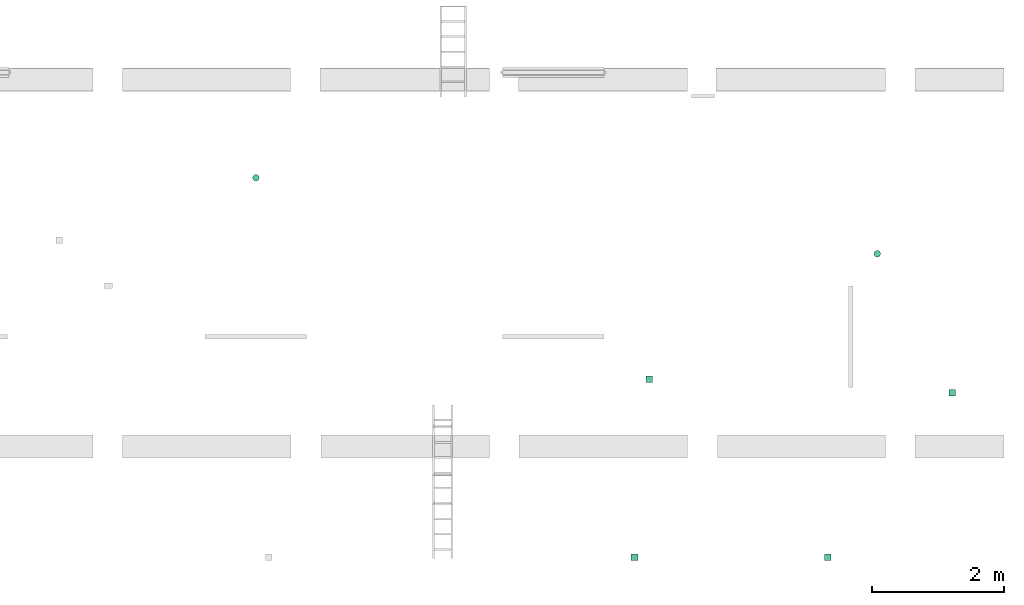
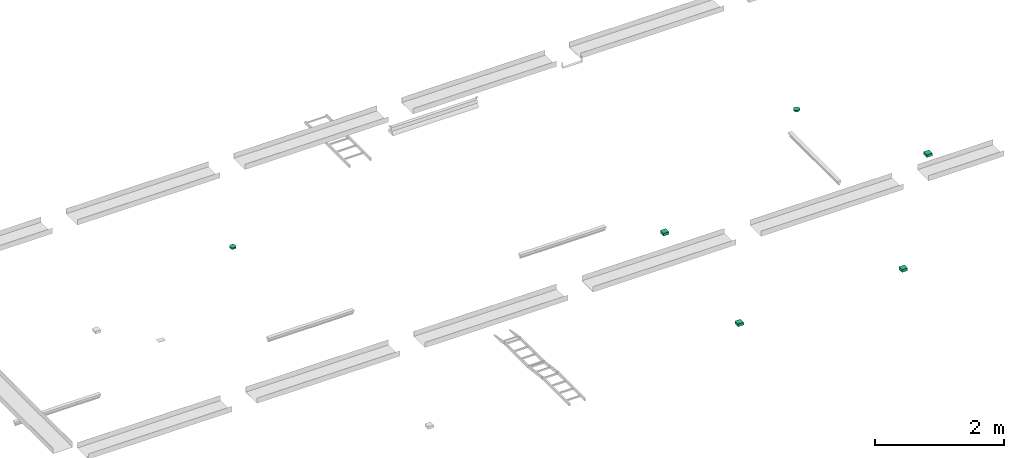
# One storey, part 7 of 14: 4 flow terminals, 2 distribution control elements.
"""IFC2X3 building model written with IfcOpenShell, lengths in millimetres."""

from ifc_helpers import new_model, entity, si_unit, converted_unit, derived_unit, direction, frame, origin_with_axes, place, context, subcontext, project, spatial, open_shell, surface_model, source, transform, mapped, type_object, element, save


model = new_model("IFC2X3")

# Units and contexts
model_context = context("Model", 3, precision=0.01, world=frame((0.0, 4.29681676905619e-09, 0.0)), true_north=direction((4.01073788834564e-13, 1.0)))
plan_context = context("Plan", 3, precision=0.01, world=frame((0.0, 4.29681676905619e-09, 0.0)), true_north=direction((4.01073788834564e-13, 1.0)))
body_context = subcontext(model_context, "Body", "Model", "MODEL_VIEW")
ifc_project = project(units=[converted_unit("PLANEANGLEUNIT", "DEGREE", entity("IfcPositiveLengthMeasure", 0.0174532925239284), si_unit("PLANEANGLEUNIT", "RADIAN"), dimensions=[0, 0, 0, 0, 0, 0, 0]), si_unit("AREAUNIT", "SQUARE_METRE"), si_unit("LENGTHUNIT", "METRE", prefix="MILLI"), si_unit("MASSUNIT", "GRAM", prefix="KILO"), si_unit("POWERUNIT", "WATT"), si_unit("PRESSUREUNIT", "PASCAL", prefix="KILO"), si_unit("FORCEUNIT", "NEWTON", prefix="KILO"), si_unit("ELECTRICVOLTAGEUNIT", "VOLT"), si_unit("ELECTRICCURRENTUNIT", "AMPERE"), si_unit("THERMODYNAMICTEMPERATUREUNIT", "DEGREE_CELSIUS"), si_unit("TIMEUNIT", "SECOND"), si_unit("VOLUMEUNIT", "CUBIC_METRE"), derived_unit("LINEARVELOCITYUNIT", [(si_unit("LENGTHUNIT", "METRE"), 1), (si_unit("TIMEUNIT", "SECOND"), -1)]), derived_unit("VOLUMETRICFLOWRATEUNIT", [(si_unit("VOLUMEUNIT", "CUBIC_METRE"), 1), (si_unit("TIMEUNIT", "SECOND"), -1)]), derived_unit("THERMALTRANSMITTANCEUNIT", [(si_unit("POWERUNIT", "WATT"), 1), (si_unit("THERMODYNAMICTEMPERATUREUNIT", "KELVIN"), -1), (si_unit("AREAUNIT", "SQUARE_METRE"), -1)]), derived_unit("SOUNDPRESSUREUNIT", [(si_unit("PRESSUREUNIT", "PASCAL"), 1)])], contexts=[model_context, plan_context])

# Site, building, storey
site_placement = place(None, frame((0.0, -4.29681676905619e-09, 0.0), z_axis=(0.0, 0.0, 1.0), x_axis=(1.0, 0.0, 0.0)))
site = spatial("IfcSite", under=ifc_project, at=site_placement, Name="ENGM", CompositionType="ELEMENT")
building_placement = place(site_placement, frame((0.0, 4.29681676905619e-09, 0.0), z_axis=(0.0, 0.0, 1.0), x_axis=(1.0, 0.0, 0.0)))
building = spatial("IfcBuilding", under=site, at=building_placement, Name="TG", CompositionType="ELEMENT")
storey_placement = place(building_placement, frame((0.0, 0.0, 205200.0), z_axis=(0.0, 0.0, 1.0), x_axis=(1.0, 0.0, 0.0)))
storey = spatial("IfcBuildingStorey", under=building, at=storey_placement, Name="Nivå D + 1,2", CompositionType="ELEMENT", Elevation=205200.0)

# Distribution control elements
alarm_type = type_object("IfcAlarmType", Name="Standard", PredefinedType="NOTDEFINED")
shared_shape_1 = source(origin_with_axes(), body_context, "Body", "SurfaceModel", [
    surface_model("IfcShellBasedSurfaceModel", [(-25.0, 43.30127, -28.9), (-35.35534, 35.35534, -28.9), (-18.0, 31.17691, -28.9), (-25.45584, 25.45584, -28.9), (-9.31749, 34.77333, -28.9), (-12.94095, 48.29629, -28.9), (0.0, 36.0, -28.9), (0.0, 50.0, -28.9), (-34.77333, 9.31749, -28.9), (-43.30127, 25.0, -28.9), (-48.29629, 12.94095, -28.9), (-36.0, 0.0, -28.9), (-50.0, 0.0, -28.9), (-31.17691, 18.0, -28.9), (9.31749, 34.77333, -28.9), (12.94095, 48.29629, -28.9), (18.0, 31.17691, -28.9), (35.35534, 35.35534, -28.9), (25.0, 43.30127, -28.9), (25.45584, 25.45584, -28.9), (31.17691, 18.0, -28.9), (34.77333, 9.31749, -28.9), (43.30127, 25.0, -28.9), (48.29629, 12.94095, -28.9), (36.0, 0.0, -28.9), (50.0, 0.0, -28.9), (-34.77333, -9.31749, -28.9), (-48.29629, -12.94095, -28.9), (-31.17691, -18.0, -28.9), (-43.30127, -25.0, -28.9), (-25.45584, -25.45584, -28.9), (-35.35534, -35.35534, -28.9), (-18.0, -31.17691, -28.9), (-25.0, -43.30127, -28.9), (-9.31749, -34.77333, -28.9), (-12.94095, -48.29629, -28.9), (0.0, -36.0, -28.9), (0.0, -50.0, -28.9), (43.30127, -25.0, -28.9), (31.17691, -18.0, -28.9), (35.35534, -35.35534, -28.9), (34.77333, -9.31749, -28.9), (48.29629, -12.94095, -28.9), (25.45584, -25.45584, -28.9), (9.31749, -34.77333, -28.9), (12.94095, -48.29629, -28.9), (18.0, -31.17691, -28.9), (25.0, -43.30127, -28.9), (-25.0, -43.30127, -29.1), (-35.35534, -35.35534, -29.1), (-18.0, -31.17691, -29.1), (-25.45584, -25.45584, -29.1), (-9.31749, -34.77333, -29.1), (-12.94095, -48.29629, -29.1), (0.0, -36.0, -29.1), (0.0, -50.0, -29.1), (-34.77333, -9.31749, -29.1), (-43.30127, -25.0, -29.1), (-48.29629, -12.94095, -29.1), (-36.0, 0.0, -29.1), (-50.0, 0.0, -29.1), (-31.17691, -18.0, -29.1), (9.31749, -34.77333, -29.1), (12.94095, -48.29629, -29.1), (18.0, -31.17691, -29.1), (35.35534, -35.35534, -29.1), (25.0, -43.30127, -29.1), (25.45584, -25.45584, -29.1), (31.17691, -18.0, -29.1), (34.77333, -9.31749, -29.1), (43.30127, -25.0, -29.1), (48.29629, -12.94095, -29.1), (36.0, 0.0, -29.1), (50.0, 0.0, -29.1), (-34.77333, 9.31749, -29.1), (-48.29629, 12.94095, -29.1), (-31.17691, 18.0, -29.1), (-43.30127, 25.0, -29.1), (-25.45584, 25.45584, -29.1), (-35.35534, 35.35534, -29.1), (-18.0, 31.17691, -29.1), (-25.0, 43.30127, -29.1), (-9.31749, 34.77333, -29.1), (-12.94095, 48.29629, -29.1), (0.0, 36.0, -29.1), (0.0, 50.0, -29.1), (43.30127, 25.0, -29.1), (31.17691, 18.0, -29.1), (35.35534, 35.35534, -29.1), (34.77333, 9.31749, -29.1), (48.29629, 12.94095, -29.1), (25.45584, 25.45584, -29.1), (9.31749, 34.77333, -29.1), (12.94095, 48.29629, -29.1), (18.0, 31.17691, -29.1), (25.0, 43.30127, -29.1), (6.47048, -24.14815, -44.9), (12.5, -21.65064, -44.9), (17.67767, -17.67767, -44.9), (24.14815, -6.47048, -44.9), (-24.14815, -6.47048, -44.9), (21.65064, -12.5, -44.9), (-21.65064, 12.5, -44.9), (0.0, -25.0, -44.9), (-12.5, -21.65064, -44.9), (-6.47048, -24.14815, -44.9), (-17.67767, -17.67767, -44.9), (-21.65064, -12.5, -44.9), (25.0, 0.0, -44.9), (24.14815, 6.47048, -44.9), (21.65064, 12.5, -44.9), (17.67767, 17.67767, -44.9), (12.5, 21.65064, -44.9), (6.47048, 24.14815, -44.9), (0.0, 25.0, -44.9), (-25.0, 0.0, -44.9), (-24.14815, 6.47048, -44.9), (-12.5, 21.65064, -44.9), (-17.67767, 17.67767, -44.9), (-6.47048, 24.14815, -44.9), (0.0, 25.0, -45.1), (6.47048, 24.14815, -45.1), (12.5, 21.65064, -45.1), (-21.65064, 12.5, -45.1), (17.67767, 17.67767, -45.1), (21.65064, 12.5, -45.1), (24.14815, 6.47048, -45.1), (-12.5, 21.65064, -45.1), (-17.67767, 17.67767, -45.1), (-6.47048, 24.14815, -45.1), (-25.0, 0.0, -45.1), (-24.14815, 6.47048, -45.1), (-24.14815, -6.47048, -45.1), (24.14815, -6.47048, -45.1), (6.47048, -24.14815, -45.1), (21.65064, -12.5, -45.1), (17.67767, -17.67767, -45.1), (12.5, -21.65064, -45.1), (-12.5, -21.65064, -45.1), (-17.67767, -17.67767, -45.1), (-21.65064, -12.5, -45.1), (0.0, -25.0, -45.1), (-6.47048, -24.14815, -45.1), (25.0, 0.0, -45.1), (-1.46739, 34.60682, -29.0), (0.0, 34.8, -29.0), (0.0, 35.0, -29.0), (-34.60682, 1.46739, -29.0), (-35.0, 0.0, -29.0), (-34.8, 0.0, -29.0), (-17.5, 30.31089, -29.0), (-18.5742, 29.23669, -29.0), (-17.4, 30.13768, -29.0), (-24.60732, -24.60732, -29.0), (-18.5742, -29.23669, -29.0), (-29.23669, -18.5742, -29.0), (34.8, 0.0, -29.0), (34.60682, -1.46739, -29.0), (35.0, 0.0, -29.0), (17.4, 30.13768, -29.0), (17.5, 30.31089, -29.0), (16.03261, 30.70407, -29.0), (30.13768, 17.4, -29.0), (30.31089, 17.5, -29.0), (29.23669, 18.5742, -29.0), (34.60682, 1.46739, -29.0), (33.61422, -9.0069, -29.0), (30.70407, -16.03261, -29.0), (-33.61422, -9.0069, -29.0), (-30.70407, -16.03261, -29.0), (-34.60682, -1.46739, -29.0), (-30.13768, -17.4, -29.0), (-30.31089, -17.5, -29.0), (-17.5, -30.31089, -29.0), (-17.4, -30.13768, -29.0), (-1.46739, -34.60682, -29.0), (0.0, -35.0, -29.0), (0.0, -34.8, -29.0), (-16.03261, -30.70407, -29.0), (-9.0069, -33.61422, -29.0), (1.46739, -34.60682, -29.0), (30.13768, -17.4, -29.0), (29.23669, -18.5742, -29.0), (30.31089, -17.5, -29.0), (24.60732, -24.60732, -29.0), (18.5742, -29.23669, -29.0), (9.0069, -33.61422, -29.0), (16.03261, -30.70407, -29.0), (-30.13768, 17.4, -29.0), (-30.31089, 17.5, -29.0), (-30.70407, 16.03261, -29.0), (17.4, -30.13768, -29.0), (17.5, -30.31089, -29.0), (-33.61422, 9.0069, -29.0), (-29.23669, 18.5742, -29.0), (-24.60732, 24.60732, -29.0), (-16.03261, 30.70407, -29.0), (-9.0069, 33.61422, -29.0), (1.46739, 34.60682, -29.0), (9.0069, 33.61422, -29.0), (18.5742, 29.23669, -29.0), (24.60732, 24.60732, -29.0), (30.70407, 16.03261, -29.0), (33.61422, 9.0069, -29.0), (23.00389, 18.55381, -38.25), (14.9, 25.80756, -38.25), (21.07178, 21.07178, -38.25), (29.66376, 1.03484, -38.25), (30.0, 0.0, -38.25), (29.8, 0.0, -38.25), (24.27051, 17.63356, -38.25), (24.68215, 16.36666, -38.25), (10.52665, 27.61906, -38.25), (28.78459, 7.71281, -38.25), (-10.52665, 27.61906, -38.25), (-23.00389, 18.55381, -38.25), (-14.9, 25.80756, -38.25), (8.32335, 28.5317, -38.25), (0.0, 29.8, -38.25), (7.71281, 28.78459, -38.25), (-8.32335, 28.5317, -38.25), (-24.68215, 16.36666, -38.25), (-28.78459, 7.71281, -38.25), (-25.80756, 14.9, -38.25), (-9.27051, 28.5317, -38.25), (-29.66376, 1.03484, -38.25), (-29.8, 0.0, -38.25), (-30.0, 0.0, -38.25), (-28.78459, -7.71281, -38.25), (-24.68215, -16.36666, -38.25), (-25.80756, -14.9, -38.25), (29.66376, -1.03484, -38.25), (-7.71281, 28.78459, -38.25), (25.80756, 14.9, -38.25), (14.9, -25.80756, -38.25), (10.52665, -27.61906, -38.25), (23.00389, -18.55381, -38.25), (28.78459, -7.71281, -38.25), (24.68215, -16.36666, -38.25), (0.0, -29.8, -38.25), (-7.71281, -28.78459, -38.25), (-8.32335, -28.5317, -38.25), (8.32335, -28.5317, -38.25), (9.27051, 28.5317, -38.25), (-29.66376, -1.03484, -38.25), (21.07178, -21.07178, -38.25), (-23.00389, -18.55381, -38.25), (-24.27051, -17.63356, -38.25), (-9.27051, -28.5317, -38.25), (-10.52665, -27.61906, -38.25), (-21.07178, -21.07178, -38.25), (-14.9, -25.80756, -38.25), (9.27051, -28.5317, -38.25), (7.71281, -28.78459, -38.25), (24.27051, -17.63356, -38.25), (25.80756, -14.9, -38.25), (-21.07178, 21.07178, -38.25), (-24.27051, 17.63356, -38.25), (33.28589, -6.39713, -29.0), (27.13526, -8.81678, -38.25), (-16.77051, -23.08263, -38.25), (-23.90544, -23.90544, -29.0), (-27.13526, -8.81678, -38.25), (-33.28589, -6.39713, -29.0), (16.77051, -23.08263, -38.25), (8.75, -32.65544, -29.0), (0.0, -28.5317, -38.25), (23.90544, -23.90544, -29.0), (-8.75, -32.65544, -29.0), (-33.28589, 6.39713, -29.0), (-27.13526, 8.81678, -38.25), (16.77051, 23.08263, -38.25), (23.90544, 23.90544, -29.0), (27.13526, 8.81678, -38.25), (33.28589, 6.39713, -29.0), (-16.77051, 23.08263, -38.25), (-8.75, 32.65544, -29.0), (0.0, 28.5317, -38.25), (-23.90544, 23.90544, -29.0), (8.75, 32.65544, -29.0), (12.4, 21.47743, -45.0), (17.53625, 17.53625, -45.0), (19.07577, 15.5299, -45.0), (20.22543, 14.69463, -45.0), (20.59905, 13.54472, -45.0), (24.66376, 1.03484, -45.0), (25.0, 0.0, -45.0), (24.8, 0.0, -45.0), (8.88673, 22.93267, -45.0), (23.95496, 6.41871, -45.0), (-8.88673, 22.93267, -45.0), (-19.07577, 15.5299, -45.0), (-12.4, 21.47743, -45.0), (6.84976, 23.77641, -45.0), (0.0, 24.8, -45.0), (6.41871, 23.95496, -45.0), (-7.72542, 23.77641, -45.0), (-6.84976, 23.77641, -45.0), (-21.47743, 12.4, -45.0), (-20.59905, 13.54472, -45.0), (-23.95496, 6.41871, -45.0), (-25.0, 0.0, -45.0), (-24.66376, 1.03484, -45.0), (-24.8, 0.0, -45.0), (-23.95496, -6.41871, -45.0), (-20.59905, -13.54472, -45.0), (-21.47743, -12.4, -45.0), (-6.41871, 23.95496, -45.0), (24.66376, -1.03484, -45.0), (21.47743, 12.4, -45.0), (12.4, -21.47743, -45.0), (8.88673, -22.93267, -45.0), (19.07577, -15.5299, -45.0), (23.95496, -6.41871, -45.0), (20.59905, -13.54472, -45.0), (0.0, -24.8, -45.0), (-6.41871, -23.95496, -45.0), (-6.84976, -23.77641, -45.0), (7.72542, -23.77641, -45.0), (6.84976, -23.77641, -45.0), (7.72542, 23.77641, -45.0), (-24.66376, -1.03484, -45.0), (17.53625, -17.53625, -45.0), (-20.22543, -14.69463, -45.0), (-19.07577, -15.5299, -45.0), (-8.88673, -22.93267, -45.0), (-7.72542, -23.77641, -45.0), (-17.53625, -17.53625, -45.0), (-12.4, -21.47743, -45.0), (6.41871, -23.95496, -45.0), (20.22543, -14.69463, -45.0), (21.47743, -12.4, -45.0), (-17.53625, 17.53625, -45.0), (-20.22543, 14.69463, -45.0), (-22.61271, -7.34732, -45.0), (-13.97542, -19.23552, -45.0), (0.0, -23.77641, -45.0), (21.83768, -9.73262, -45.0), (13.97542, -19.23552, -45.0), (23.41884, -4.86631, -45.0), (22.61271, 7.34732, -45.0), (13.97542, 19.23552, -45.0), (0.0, 23.77641, -45.0), (-21.83768, 9.73262, -45.0), (-13.97542, 19.23552, -45.0), (-23.41884, 4.86631, -45.0), (12.94095, -48.29629, 0.0), (25.0, -43.30127, 0.0), (35.35534, -35.35534, 0.0), (48.29629, -12.94095, 0.0), (-48.29629, -12.94095, 0.0), (43.30127, -25.0, 0.0), (-43.30127, 25.0, 0.0), (0.0, -50.0, 0.0), (-25.0, -43.30127, 0.0), (-12.94095, -48.29629, 0.0), (-35.35534, -35.35534, 0.0), (-43.30127, -25.0, 0.0), (50.0, 0.0, 0.0), (48.29629, 12.94095, 0.0), (43.30127, 25.0, 0.0), (35.35534, 35.35534, 0.0), (25.0, 43.30127, 0.0), (12.94095, 48.29629, 0.0), (0.0, 50.0, 0.0), (-50.0, 0.0, 0.0), (-48.29629, 12.94095, 0.0), (-25.0, 43.30127, 0.0), (-35.35534, 35.35534, 0.0), (-12.94095, 48.29629, 0.0), (0.0, 50.0, -29.0), (12.94095, 48.29629, -29.0), (25.0, 43.30127, -29.0), (-43.30127, 25.0, -29.0), (35.35534, 35.35534, -29.0), (43.30127, 25.0, -29.0), (48.29629, 12.94095, -29.0), (-25.0, 43.30127, -29.0), (-35.35534, 35.35534, -29.0), (-12.94095, 48.29629, -29.0), (-50.0, 0.0, -29.0), (-48.29629, 12.94095, -29.0), (-48.29629, -12.94095, -29.0), (48.29629, -12.94095, -29.0), (12.94095, -48.29629, -29.0), (43.30127, -25.0, -29.0), (35.35534, -35.35534, -29.0), (25.0, -43.30127, -29.0), (-25.0, -43.30127, -29.0), (-35.35534, -35.35534, -29.0), (-43.30127, -25.0, -29.0), (0.0, -50.0, -29.0), (-12.94095, -48.29629, -29.0), (50.0, 0.0, -29.0)], [open_shell([[[0, 1, 2]], [[2, 1, 3]], [[0, 2, 4]], [[5, 4, 6]], [[4, 5, 0]], [[5, 6, 7]], [[8, 9, 10]], [[11, 10, 12]], [[8, 10, 11]], [[13, 3, 9]], [[8, 13, 9]], [[9, 3, 1]], [[7, 14, 15]], [[14, 7, 6]], [[15, 14, 16]], [[17, 18, 19]], [[16, 18, 15]], [[19, 18, 16]], [[20, 21, 22]], [[20, 22, 17]], [[21, 23, 22]], [[23, 21, 24]], [[23, 24, 25]], [[20, 17, 19]], [[26, 12, 27]], [[28, 27, 29]], [[28, 26, 27]], [[30, 28, 29]], [[29, 31, 30]], [[32, 31, 33]], [[31, 32, 30]], [[32, 33, 34]], [[34, 35, 36]], [[35, 34, 33]], [[36, 35, 37]], [[38, 39, 40]], [[41, 39, 42]], [[41, 42, 25]], [[42, 39, 38]], [[39, 43, 40]], [[25, 24, 41]], [[44, 37, 45]], [[37, 44, 36]], [[44, 45, 46]], [[47, 40, 43]], [[47, 46, 45]], [[47, 43, 46]], [[26, 11, 12]], [[48, 49, 50]], [[50, 49, 51]], [[48, 50, 52]], [[53, 52, 54]], [[52, 53, 48]], [[53, 54, 55]], [[56, 57, 58]], [[59, 58, 60]], [[56, 58, 59]], [[61, 51, 57]], [[56, 61, 57]], [[57, 51, 49]], [[55, 62, 63]], [[62, 55, 54]], [[63, 62, 64]], [[65, 66, 67]], [[64, 66, 63]], [[67, 66, 64]], [[68, 69, 70]], [[68, 70, 65]], [[69, 71, 70]], [[71, 69, 72]], [[71, 72, 73]], [[68, 65, 67]], [[74, 60, 75]], [[76, 75, 77]], [[76, 74, 75]], [[78, 76, 77]], [[77, 79, 78]], [[80, 79, 81]], [[79, 80, 78]], [[80, 81, 82]], [[82, 83, 84]], [[83, 82, 81]], [[84, 83, 85]], [[86, 87, 88]], [[89, 87, 90]], [[89, 90, 73]], [[90, 87, 86]], [[87, 91, 88]], [[73, 72, 89]], [[92, 85, 93]], [[85, 92, 84]], [[92, 93, 94]], [[95, 88, 91]], [[95, 94, 93]], [[95, 91, 94]], [[74, 59, 60]], [[11, 59, 8]], [[8, 74, 13]], [[2, 3, 78]], [[76, 3, 13]], [[4, 2, 80]], [[74, 76, 13]], [[8, 59, 74]], [[84, 6, 82]], [[4, 80, 82]], [[80, 2, 78]], [[3, 76, 78]], [[4, 82, 6]], [[14, 92, 16]], [[16, 94, 19]], [[21, 20, 87]], [[91, 20, 19]], [[24, 21, 89]], [[92, 94, 16]], [[14, 84, 92]], [[21, 87, 89]], [[87, 20, 91]], [[19, 94, 91]], [[24, 89, 72]], [[6, 84, 14]], [[24, 72, 41]], [[41, 69, 39]], [[46, 43, 67]], [[68, 43, 39]], [[44, 46, 64]], [[69, 68, 39]], [[41, 72, 69]], [[54, 36, 62]], [[44, 64, 62]], [[64, 46, 67]], [[43, 68, 67]], [[44, 62, 36]], [[34, 52, 32]], [[32, 50, 30]], [[26, 28, 61]], [[51, 28, 30]], [[11, 26, 56]], [[52, 50, 32]], [[34, 54, 52]], [[26, 61, 56]], [[61, 28, 51]], [[30, 50, 51]], [[11, 56, 59]], [[36, 54, 34]], [[58, 27, 60]], [[57, 29, 58]], [[33, 49, 48]], [[57, 49, 31]], [[35, 48, 53]], [[58, 29, 27]], [[27, 12, 60]], [[35, 33, 48]], [[31, 49, 33]], [[31, 29, 57]], [[37, 35, 53]], [[53, 55, 37]], [[63, 45, 55]], [[66, 47, 63]], [[38, 65, 70]], [[66, 65, 40]], [[42, 70, 71]], [[66, 40, 47]], [[47, 45, 63]], [[25, 42, 71]], [[38, 70, 42]], [[38, 40, 65]], [[73, 25, 71]], [[55, 45, 37]], [[90, 23, 73]], [[86, 22, 90]], [[18, 88, 95]], [[86, 88, 17]], [[15, 95, 93]], [[90, 22, 23]], [[23, 25, 73]], [[15, 18, 95]], [[17, 88, 18]], [[17, 22, 86]], [[7, 15, 93]], [[93, 85, 7]], [[83, 5, 85]], [[81, 0, 83]], [[9, 79, 77]], [[81, 79, 1]], [[10, 77, 75]], [[81, 1, 0]], [[0, 5, 83]], [[12, 10, 75]], [[9, 77, 10]], [[9, 1, 79]], [[60, 12, 75]], [[85, 5, 7]], [[96, 97, 98]], [[96, 98, 99]], [[96, 99, 100]], [[99, 98, 101]], [[102, 100, 99]], [[103, 104, 105]], [[103, 96, 104]], [[106, 100, 107]], [[106, 104, 96]], [[100, 106, 96]], [[99, 108, 102]], [[109, 110, 111]], [[109, 111, 112]], [[112, 113, 114]], [[109, 112, 102]], [[102, 112, 114]], [[115, 102, 116]], [[100, 102, 115]], [[102, 117, 118]], [[117, 102, 119]], [[114, 119, 102]], [[102, 108, 109]], [[120, 121, 122]], [[123, 120, 122]], [[124, 125, 126]], [[124, 126, 122]], [[123, 122, 126]], [[127, 123, 128]], [[123, 127, 129]], [[123, 130, 131]], [[123, 129, 120]], [[123, 132, 130]], [[123, 126, 133]], [[132, 123, 133]], [[134, 133, 135]], [[136, 137, 134]], [[136, 134, 135]], [[138, 133, 134]], [[132, 139, 140]], [[132, 133, 139]], [[138, 141, 142]], [[139, 133, 138]], [[134, 141, 138]], [[133, 126, 143]], [[132, 100, 130]], [[140, 107, 132]], [[104, 139, 138]], [[140, 139, 106]], [[105, 138, 142]], [[132, 107, 100]], [[100, 115, 130]], [[105, 104, 138]], [[106, 139, 104]], [[106, 107, 140]], [[103, 105, 142]], [[142, 141, 103]], [[134, 96, 141]], [[137, 97, 134]], [[101, 136, 135]], [[137, 136, 98]], [[99, 135, 133]], [[137, 98, 97]], [[97, 96, 134]], [[108, 99, 133]], [[101, 135, 99]], [[101, 98, 136]], [[143, 108, 133]], [[141, 96, 103]], [[126, 109, 143]], [[125, 110, 126]], [[112, 124, 122]], [[125, 124, 111]], [[113, 122, 121]], [[126, 110, 109]], [[109, 108, 143]], [[113, 112, 122]], [[111, 124, 112]], [[111, 110, 125]], [[114, 113, 121]], [[121, 120, 114]], [[129, 119, 120]], [[127, 117, 129]], [[102, 128, 123]], [[127, 128, 118]], [[116, 123, 131]], [[127, 118, 117]], [[117, 119, 129]], [[115, 116, 131]], [[102, 123, 116]], [[102, 118, 128]], [[130, 115, 131]], [[120, 119, 114]], [[144, 145, 146]], [[147, 148, 149]], [[150, 151, 152]], [[153, 154, 155]], [[156, 157, 158]], [[159, 160, 161]], [[162, 163, 164]], [[156, 158, 165]], [[166, 157, 167]], [[168, 169, 170]], [[170, 149, 148]], [[171, 169, 172]], [[173, 174, 154]], [[175, 176, 177]], [[174, 173, 178]], [[155, 171, 172]], [[179, 175, 178]], [[180, 177, 176]], [[181, 182, 183]], [[181, 183, 167]], [[184, 182, 185]], [[186, 187, 180]], [[188, 189, 190]], [[191, 192, 185]], [[191, 187, 192]], [[193, 147, 190]], [[188, 194, 189]], [[195, 194, 151]], [[152, 196, 150]], [[197, 196, 144]], [[145, 198, 146]], [[199, 198, 161]], [[159, 200, 160]], [[201, 200, 164]], [[162, 202, 163]], [[203, 202, 165]], [[204, 205, 206]], [[207, 208, 209]], [[204, 210, 211]], [[205, 204, 212]], [[213, 207, 211]], [[214, 215, 216]], [[217, 218, 219]], [[218, 217, 220]], [[221, 222, 223]], [[220, 214, 224]], [[225, 226, 227]], [[228, 229, 230]], [[209, 208, 231]], [[218, 220, 232]], [[213, 211, 233]], [[234, 235, 236]], [[237, 238, 231]], [[239, 240, 241]], [[241, 242, 239]], [[243, 212, 217]], [[227, 226, 244]], [[234, 236, 245]], [[229, 246, 247]], [[241, 248, 249]], [[250, 246, 251]], [[228, 244, 229]], [[235, 252, 242]], [[239, 242, 253]], [[236, 238, 254]], [[238, 237, 255]], [[251, 246, 249]], [[216, 215, 256]], [[215, 221, 257]], [[222, 221, 225]], [[208, 158, 258]], [[183, 259, 258]], [[260, 261, 247]], [[172, 262, 247]], [[263, 227, 262]], [[192, 252, 264]], [[260, 248, 173]], [[261, 260, 173]], [[252, 265, 266]], [[227, 263, 148]], [[172, 263, 262]], [[258, 259, 208]], [[254, 267, 264]], [[268, 173, 248]], [[252, 192, 265]], [[192, 264, 267]], [[267, 254, 183]], [[259, 183, 254]], [[268, 266, 176]], [[265, 176, 266]], [[248, 266, 268]], [[172, 247, 261]], [[227, 148, 269]], [[189, 270, 269]], [[271, 272, 210]], [[163, 273, 210]], [[274, 208, 273]], [[150, 224, 275]], [[271, 243, 160]], [[272, 271, 160]], [[224, 276, 277]], [[208, 274, 158]], [[163, 274, 273]], [[269, 270, 227]], [[257, 278, 275]], [[279, 160, 243]], [[224, 150, 276]], [[150, 275, 278]], [[278, 257, 189]], [[270, 189, 257]], [[279, 277, 146]], [[276, 146, 277]], [[243, 277, 279]], [[163, 210, 272]], [[171, 230, 228]], [[168, 228, 226]], [[179, 240, 251]], [[174, 251, 250]], [[153, 250, 230]], [[168, 171, 228]], [[226, 149, 168]], [[251, 174, 179]], [[174, 250, 153]], [[230, 171, 153]], [[240, 179, 177]], [[177, 239, 240]], [[184, 245, 234]], [[191, 234, 253]], [[156, 209, 237]], [[166, 237, 255]], [[181, 255, 245]], [[239, 186, 253]], [[186, 191, 253]], [[177, 186, 239]], [[184, 181, 245]], [[191, 184, 234]], [[181, 166, 255]], [[166, 156, 237]], [[162, 233, 213]], [[203, 213, 209]], [[199, 219, 205]], [[159, 205, 206]], [[201, 206, 233]], [[203, 162, 213]], [[209, 156, 203]], [[205, 159, 199]], [[159, 206, 201]], [[233, 162, 201]], [[219, 199, 145]], [[145, 218, 219]], [[195, 256, 216]], [[152, 216, 232]], [[149, 226, 222]], [[193, 222, 223]], [[188, 223, 256]], [[218, 197, 232]], [[197, 152, 232]], [[145, 197, 218]], [[195, 188, 256]], [[152, 195, 216]], [[188, 193, 223]], [[193, 149, 222]], [[215, 216, 256]], [[221, 222, 225]], [[225, 227, 226]], [[257, 221, 215]], [[216, 215, 214]], [[212, 204, 205]], [[220, 218, 232]], [[218, 220, 217]], [[217, 212, 243]], [[233, 211, 213]], [[208, 207, 209]], [[237, 238, 255]], [[252, 235, 242]], [[218, 217, 219]], [[227, 244, 226]], [[222, 221, 223]], [[228, 229, 244]], [[239, 253, 242]], [[246, 251, 249]], [[249, 248, 241]], [[231, 238, 237]], [[208, 209, 231]], [[251, 246, 250]], [[254, 238, 236]], [[236, 234, 245]], [[214, 220, 224]], [[242, 241, 239]], [[239, 241, 240]], [[246, 229, 247]], [[230, 229, 228]], [[234, 236, 235]], [[205, 204, 206]], [[204, 211, 210]], [[213, 211, 207]], [[280, 281, 282]], [[282, 283, 284]], [[285, 286, 287]], [[280, 282, 288]], [[289, 285, 284]], [[290, 291, 292]], [[293, 294, 295]], [[290, 296, 297]], [[294, 293, 297]], [[298, 299, 300]], [[301, 302, 303]], [[304, 305, 306]], [[294, 297, 307]], [[308, 287, 286]], [[289, 284, 309]], [[310, 311, 312]], [[313, 314, 308]], [[315, 316, 317]], [[311, 318, 319]], [[293, 320, 288]], [[301, 303, 321]], [[310, 312, 322]], [[323, 305, 324]], [[325, 317, 326]], [[327, 324, 328]], [[304, 321, 305]], [[317, 319, 315]], [[315, 319, 329]], [[312, 314, 330]], [[331, 314, 313]], [[328, 324, 325]], [[292, 291, 332]], [[291, 299, 333]], [[300, 299, 302]], [[262, 301, 334]], [[334, 323, 247]], [[248, 335, 326]], [[301, 262, 227]], [[334, 247, 262]], [[260, 323, 335]], [[266, 248, 326]], [[336, 252, 266]], [[252, 336, 318]], [[323, 260, 247]], [[248, 260, 335]], [[254, 337, 259]], [[318, 264, 252]], [[338, 254, 264]], [[339, 286, 208]], [[264, 318, 338]], [[259, 339, 208]], [[338, 330, 254]], [[266, 326, 336]], [[259, 337, 339]], [[337, 254, 330]], [[273, 286, 340]], [[340, 283, 210]], [[243, 341, 320]], [[286, 273, 208]], [[340, 210, 273]], [[271, 283, 341]], [[277, 243, 320]], [[342, 224, 277]], [[224, 342, 296]], [[283, 271, 210]], [[243, 271, 341]], [[257, 343, 270]], [[296, 275, 224]], [[344, 257, 275]], [[345, 301, 227]], [[275, 296, 344]], [[270, 345, 227]], [[344, 333, 257]], [[277, 320, 342]], [[270, 343, 345]], [[343, 257, 333]], [[230, 306, 304]], [[228, 304, 303]], [[240, 316, 328]], [[251, 328, 327]], [[250, 327, 306]], [[228, 230, 304]], [[303, 226, 228]], [[328, 251, 240]], [[251, 327, 250]], [[306, 230, 250]], [[316, 240, 239]], [[239, 315, 316]], [[245, 322, 310]], [[234, 310, 329]], [[209, 287, 313]], [[237, 313, 331]], [[255, 331, 322]], [[315, 253, 329]], [[253, 234, 329]], [[239, 253, 315]], [[255, 322, 245]], [[234, 245, 310]], [[331, 255, 237]], [[237, 209, 313]], [[233, 309, 289]], [[213, 289, 287]], [[219, 295, 280]], [[205, 280, 281]], [[206, 281, 309]], [[213, 233, 289]], [[287, 209, 213]], [[280, 205, 219]], [[205, 281, 206]], [[309, 233, 206]], [[295, 219, 218]], [[218, 294, 295]], [[256, 332, 292]], [[216, 292, 307]], [[226, 303, 300]], [[222, 300, 298]], [[223, 298, 332]], [[294, 232, 307]], [[232, 216, 307]], [[218, 232, 294]], [[223, 332, 256]], [[216, 256, 292]], [[298, 223, 222]], [[222, 226, 300]], [[346, 347, 348]], [[346, 348, 349]], [[346, 349, 350]], [[349, 348, 351]], [[352, 350, 349]], [[353, 354, 355]], [[353, 346, 354]], [[356, 350, 357]], [[356, 354, 346]], [[350, 356, 346]], [[349, 358, 352]], [[359, 360, 361]], [[359, 361, 362]], [[362, 363, 364]], [[359, 362, 352]], [[352, 362, 364]], [[365, 352, 366]], [[350, 352, 365]], [[352, 367, 368]], [[367, 352, 369]], [[364, 369, 352]], [[352, 358, 359]], [[370, 371, 372]], [[373, 370, 372]], [[374, 375, 376]], [[374, 376, 372]], [[373, 372, 376]], [[377, 373, 378]], [[373, 377, 379]], [[373, 380, 381]], [[373, 379, 370]], [[373, 382, 380]], [[373, 376, 383]], [[382, 373, 383]], [[384, 383, 385]], [[386, 387, 384]], [[386, 384, 385]], [[388, 383, 384]], [[382, 389, 390]], [[382, 383, 389]], [[388, 391, 392]], [[389, 383, 388]], [[384, 391, 388]], [[383, 376, 393]], [[382, 350, 380]], [[390, 357, 382]], [[354, 389, 388]], [[390, 389, 356]], [[355, 388, 392]], [[382, 357, 350]], [[350, 365, 380]], [[355, 354, 388]], [[356, 389, 354]], [[356, 357, 390]], [[353, 355, 392]], [[392, 391, 353]], [[384, 346, 391]], [[387, 347, 384]], [[351, 386, 385]], [[387, 386, 348]], [[349, 385, 383]], [[387, 348, 347]], [[347, 346, 384]], [[358, 349, 383]], [[351, 385, 349]], [[351, 348, 386]], [[393, 358, 383]], [[391, 346, 353]], [[376, 359, 393]], [[375, 360, 376]], [[362, 374, 372]], [[375, 374, 361]], [[363, 372, 371]], [[376, 360, 359]], [[359, 358, 393]], [[363, 362, 372]], [[361, 374, 362]], [[361, 360, 375]], [[364, 363, 371]], [[371, 370, 364]], [[369, 370, 379]], [[367, 379, 377]], [[352, 373, 381]], [[366, 381, 380]], [[379, 367, 369]], [[367, 377, 378]], [[367, 378, 368]], [[368, 378, 352]], [[352, 378, 373]], [[352, 381, 366]], [[380, 365, 366]], [[370, 369, 364]]])]),
])
for number, where, z_axis, x_axis, name in (
    (1, (337747.93067, 464902.777, 4542.0), (0.0, 0.0, 1.0), (1.0, 0.0, 0.0), "Standard"),
    (2, (347146.6909, 463753.90234, 4542.0), (0.0, 0.0, 1.0), (1.0, 0.0, 0.0), "Standard"),
):
    element("IfcDistributionControlElement", number, at=place(storey_placement, frame(where, z_axis=z_axis, x_axis=x_axis)), inside=storey, type_object=alarm_type, Name=name, context=body_context, shape_type="MappedRepresentation", body=[
        mapped(shared_shape_1, transform((0.0, 0.0, 0.0), scale=1.0)),
    ])

# Flow terminals
electric_appliance_type = type_object("IfcElectricApplianceType", Name="Other_E-Dummy-EE", PredefinedType="NOTDEFINED")
shared_shape_2 = source(origin_with_axes(), body_context, "Body", "SurfaceModel", [
    surface_model("IfcShellBasedSurfaceModel", [(-50.0, 50.0, 50.0), (-50.0, -50.0, 50.0), (50.0, -50.0, 50.0), (50.0, 50.0, 50.0), (50.0, -50.0, 0.0), (-50.0, -50.0, 0.0), (-50.0, 50.0, 0.0), (50.0, 50.0, 0.0)], [open_shell([[[0, 1, 2]], [[2, 3, 0]], [[4, 5, 6]], [[6, 7, 4]], [[3, 7, 6]], [[6, 0, 3]], [[0, 6, 5]], [[5, 1, 0]], [[1, 5, 4]], [[4, 2, 1]], [[2, 4, 7]], [[7, 3, 2]]])]),
])
for number, where, z_axis, x_axis, name in (
    (3, (343473.88413, 459160.27502, 4542.0), (0.0, 0.0, 1.0), (-1.0, 0.0, 0.0), "Other_E-Dummy-EE"),
    (4, (346400.0, 459160.27502, 4542.0), (0.0, 0.0, 1.0), (-1.0, 0.0, 0.0), "Other_E-Dummy-EE"),
    (5, (348281.27229, 461652.75228, 4542.0), (0.0, 0.0, 1.0), (-1.0, 0.0, 0.0), "Other_E-Dummy-EE"),
    (6, (343696.69093, 461853.38954, 4542.0), (0.0, 0.0, 1.0), (-1.0, 0.0, 0.0), "Other_E-Dummy-EE"),
):
    element("IfcFlowTerminal", number, at=place(storey_placement, frame(where, z_axis=z_axis, x_axis=x_axis)), inside=storey, type_object=electric_appliance_type, Name=name, context=body_context, shape_type="MappedRepresentation", body=[
        mapped(shared_shape_2, transform((0.0, 0.0, 0.0), scale=1.0)),
    ])

save(model, "model.ifc")
